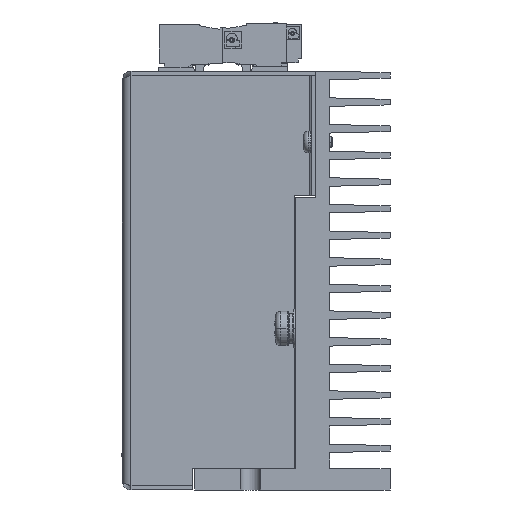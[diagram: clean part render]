
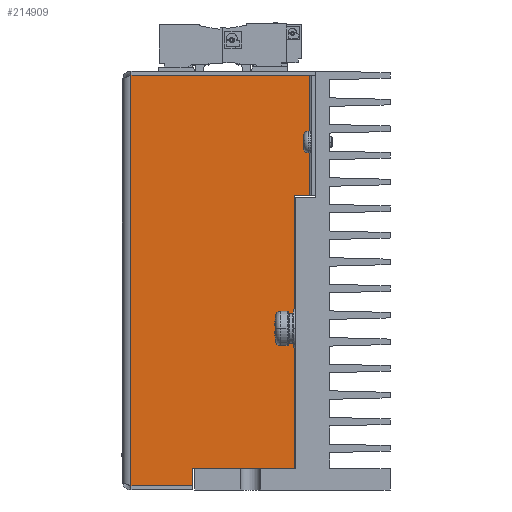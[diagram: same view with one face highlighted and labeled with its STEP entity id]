
A CAD part, left-side view. The second image highlights one B-rep face of the part: STEP entity #214909.
In plain terms, the highlighted planar face has unit normal (-1, 0, 0).
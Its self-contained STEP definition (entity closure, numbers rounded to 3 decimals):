
#212270=DIRECTION('',(0.,0.,1.));
#212271=VECTOR('',#212270,95.5);
#212272=CARTESIAN_POINT('',(-52.,43.,-47.75));
#212273=LINE('',#212272,#212271);
#212284=CARTESIAN_POINT('',(-52.,43.,-47.75));
#212296=CARTESIAN_POINT('',(-52.,43.,47.75));
#212547=DIRECTION('',(0.,-1.,0.));
#212548=VECTOR('',#212547,15.);
#212549=CARTESIAN_POINT('',(-52.,20.,-43.75));
#212550=LINE('',#212549,#212548);
#212554=DIRECTION('',(0.,0.,-1.));
#212555=VECTOR('',#212554,3.);
#212556=CARTESIAN_POINT('',(-52.,20.,-43.75));
#212557=LINE('',#212556,#212555);
#212561=DIRECTION('',(0.,1.,0.));
#212562=VECTOR('',#212561,3.5);
#212563=CARTESIAN_POINT('',(-52.,20.,-46.75));
#212564=LINE('',#212563,#212562);
#212568=DIRECTION('',(0.,0.,1.));
#212569=VECTOR('',#212568,3.);
#212570=CARTESIAN_POINT('',(-52.,23.5,-46.75));
#212571=LINE('',#212570,#212569);
#212575=DIRECTION('',(0.,-1.,0.));
#212576=VECTOR('',#212575,5.2);
#212577=CARTESIAN_POINT('',(-52.,28.7,-43.75));
#212578=LINE('',#212577,#212576);
#212582=DIRECTION('',(0.,0.,1.));
#212583=VECTOR('',#212582,4.);
#212584=CARTESIAN_POINT('',(-52.,28.7,-47.75));
#212585=LINE('',#212584,#212583);
#212589=DIRECTION('',(0.,1.,0.));
#212590=VECTOR('',#212589,14.3);
#212591=CARTESIAN_POINT('',(-52.,28.7,-47.75));
#212592=LINE('',#212591,#212590);
#212596=DIRECTION('',(0.,1.,0.));
#212597=VECTOR('',#212596,3.5);
#212598=CARTESIAN_POINT('',(-52.,1.5,19.75));
#212599=LINE('',#212598,#212597);
#212603=DIRECTION('',(0.,0.,1.));
#212604=VECTOR('',#212603,63.5);
#212605=CARTESIAN_POINT('',(-52.,5.,-43.75));
#212606=LINE('',#212605,#212604);
#212757=DIRECTION('',(0.,0.,-1.));
#212758=VECTOR('',#212757,28.);
#212759=CARTESIAN_POINT('',(-52.,1.5,47.75));
#212760=LINE('',#212759,#212758);
#212793=DIRECTION('',(0.,1.,0.));
#212794=VECTOR('',#212793,41.5);
#212795=CARTESIAN_POINT('',(-52.,1.5,47.75));
#212796=LINE('',#212795,#212794);
#214107=VERTEX_POINT('',#212296);
#214113=VERTEX_POINT('',#212284);
#214147=CARTESIAN_POINT('',(-52.,28.7,-47.75));
#214148=CARTESIAN_POINT('',(-52.,28.7,-43.75));
#214149=VERTEX_POINT('',#214147);
#214150=VERTEX_POINT('',#214148);
#214151=CARTESIAN_POINT('',(-52.,5.,-43.75));
#214152=CARTESIAN_POINT('',(-52.,5.,19.75));
#214153=VERTEX_POINT('',#214151);
#214154=VERTEX_POINT('',#214152);
#214211=CARTESIAN_POINT('',(-52.,1.5,47.75));
#214212=VERTEX_POINT('',#214211);
#214213=CARTESIAN_POINT('',(-52.,1.5,19.75));
#214214=VERTEX_POINT('',#214213);
#214271=CARTESIAN_POINT('',(-52.,20.,-43.75));
#214272=CARTESIAN_POINT('',(-52.,20.,-46.75));
#214273=VERTEX_POINT('',#214271);
#214274=VERTEX_POINT('',#214272);
#214275=CARTESIAN_POINT('',(-52.,23.5,-46.75));
#214276=VERTEX_POINT('',#214275);
#214277=CARTESIAN_POINT('',(-52.,23.5,-43.75));
#214278=VERTEX_POINT('',#214277);
#214881=CARTESIAN_POINT('',(-52.,0.,-48.75));
#214882=DIRECTION('',(-1.,0.,0.));
#214883=DIRECTION('',(0.,0.,1.));
#214884=AXIS2_PLACEMENT_3D('',#214881,#214882,#214883);
#214885=PLANE('',#214884);
#214887=ORIENTED_EDGE('',*,*,#214886,.F.);
#214889=ORIENTED_EDGE('',*,*,#214888,.T.);
#214891=ORIENTED_EDGE('',*,*,#214890,.T.);
#214893=ORIENTED_EDGE('',*,*,#214892,.T.);
#214895=ORIENTED_EDGE('',*,*,#214894,.F.);
#214896=ORIENTED_EDGE('',*,*,#214871,.F.);
#214897=ORIENTED_EDGE('',*,*,#214861,.T.);
#214898=ORIENTED_EDGE('',*,*,#214399,.T.);
#214900=ORIENTED_EDGE('',*,*,#214899,.F.);
#214902=ORIENTED_EDGE('',*,*,#214901,.T.);
#214904=ORIENTED_EDGE('',*,*,#214903,.T.);
#214906=ORIENTED_EDGE('',*,*,#214905,.F.);
#214907=EDGE_LOOP('',(#214887,#214889,#214891,#214893,#214895,#214896,#214897,
#214898,#214900,#214902,#214904,#214906));
#214908=FACE_OUTER_BOUND('',#214907,.F.);
#214909=ADVANCED_FACE('',(#214908),#214885,.T.);
#214399=EDGE_CURVE('',#214113,#214107,#212273,.T.);
#214861=EDGE_CURVE('',#214149,#214113,#212592,.T.);
#214871=EDGE_CURVE('',#214149,#214150,#212585,.T.);
#214886=EDGE_CURVE('',#214273,#214153,#212550,.T.);
#214888=EDGE_CURVE('',#214273,#214274,#212557,.T.);
#214890=EDGE_CURVE('',#214274,#214276,#212564,.T.);
#214892=EDGE_CURVE('',#214276,#214278,#212571,.T.);
#214894=EDGE_CURVE('',#214150,#214278,#212578,.T.);
#214899=EDGE_CURVE('',#214212,#214107,#212796,.T.);
#214901=EDGE_CURVE('',#214212,#214214,#212760,.T.);
#214903=EDGE_CURVE('',#214214,#214154,#212599,.T.);
#214905=EDGE_CURVE('',#214153,#214154,#212606,.T.);
